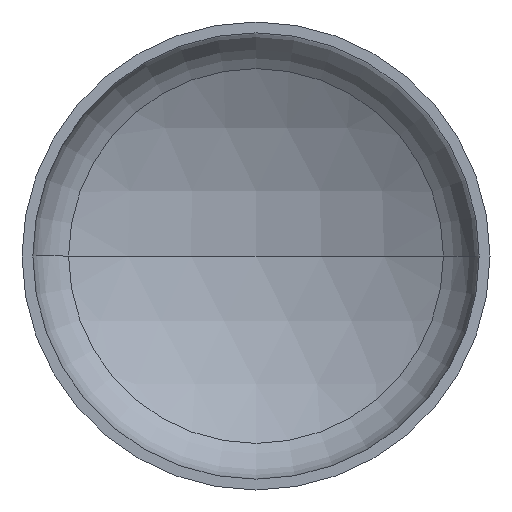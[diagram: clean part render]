
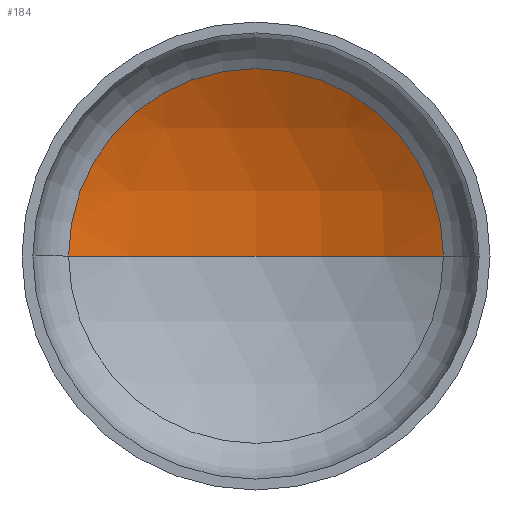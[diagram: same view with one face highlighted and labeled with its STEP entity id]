
A CAD part, front view. The second image highlights one B-rep face of the part: STEP entity #184.
In plain terms, the highlighted spherical face has radius 2560 mm.
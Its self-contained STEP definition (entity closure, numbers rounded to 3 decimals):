
#10 = AXIS2_PLACEMENT_3D ( 'NONE', #91, #374, #294 ) ;
#11 = AXIS2_PLACEMENT_3D ( 'NONE', #157, #325, #410 ) ;
#15 = AXIS2_PLACEMENT_3D ( 'NONE', #393, #256, #261 ) ;
#29 = DIRECTION ( 'NONE',  ( 0., 0., -1. ) ) ;
#38 = AXIS2_PLACEMENT_3D ( 'NONE', #179, #29, #352 ) ;
#40 = EDGE_LOOP ( 'NONE', ( #143, #100, #131 ) ) ;
#69 = VERTEX_POINT ( 'NONE', #238 ) ;
#91 = CARTESIAN_POINT ( 'NONE',  ( 0., -1672.095, 0. ) ) ;
#100 = ORIENTED_EDGE ( 'NONE', *, *, #347, .T. ) ;
#115 = VERTEX_POINT ( 'NONE', #292 ) ;
#128 = CIRCLE ( 'NONE', #11, 2560. ) ;
#131 = ORIENTED_EDGE ( 'NONE', *, *, #346, .T. ) ;
#143 = ORIENTED_EDGE ( 'NONE', *, *, #351, .F. ) ;
#152 = VERTEX_POINT ( 'NONE', #408 ) ;
#157 = CARTESIAN_POINT ( 'NONE',  ( 0., -1672.095, 0. ) ) ;
#179 = CARTESIAN_POINT ( 'NONE',  ( 0., -1672.095, 0. ) ) ;
#184 = ADVANCED_FACE ( 'NONE', ( #239 ), #411, .F. ) ;
#238 = CARTESIAN_POINT ( 'NONE',  ( 1281.237, 544.216, 0. ) ) ;
#239 = FACE_OUTER_BOUND ( 'NONE', #40, .T. ) ;
#256 = DIRECTION ( 'NONE',  ( 0., -1., 0. ) ) ;
#261 = DIRECTION ( 'NONE',  ( 1., 0., 0. ) ) ;
#269 = CIRCLE ( 'NONE', #15, 1281.237 ) ;
#292 = CARTESIAN_POINT ( 'NONE',  ( -1281.237, 544.216, 0. ) ) ;
#294 = DIRECTION ( 'NONE',  ( 1., 0., 0. ) ) ;
#325 = DIRECTION ( 'NONE',  ( 0., 0., -1. ) ) ;
#328 = CIRCLE ( 'NONE', #10, 2560. ) ;
#346 = EDGE_CURVE ( 'NONE', #69, #115, #269, .T. ) ;
#347 = EDGE_CURVE ( 'NONE', #152, #69, #128, .T. ) ;
#351 = EDGE_CURVE ( 'NONE', #152, #115, #328, .T. ) ;
#352 = DIRECTION ( 'NONE',  ( -1., 0., 0. ) ) ;
#374 = DIRECTION ( 'NONE',  ( 0., 0., 1. ) ) ;
#393 = CARTESIAN_POINT ( 'NONE',  ( 0., 544.216, 0. ) ) ;
#408 = CARTESIAN_POINT ( 'NONE',  ( 0., 887.905, 0. ) ) ;
#410 = DIRECTION ( 'NONE',  ( -1., 0., 0. ) ) ;
#411 = SPHERICAL_SURFACE ( 'NONE', #38, 2560. ) ;
